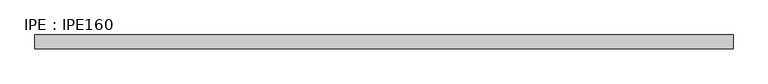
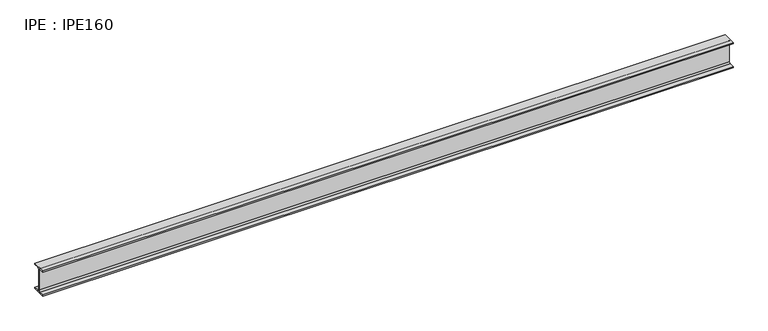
"""IFC4 building model written with IfcOpenShell, lengths in millimetres: beam geometry, IPE : IPE160."""

from ifc_helpers import new_model, si_unit, point, frame, frame_2d, origin, place, context, project, spatial, polyline, circle_curve, trimmed, segment, composite_curve, outline, extrude, source, transform, mapped, element, save


def ipe_ipe160_a0701bb3(model_context):
    return source(origin(), model_context, "Body", "SweptSolid", [
        extrude(outline(composite_curve([segment(polyline([(41.0, -72.6), (41.0, -80.0), (-41.0, -80.0), (-41.0, -72.6), (-11.5, -72.6)]), True, "CONTINUOUS"), segment(trimmed(circle_curve(frame_2d((-11.5, -63.6)), 9.0), [point((-11.5, -72.6))], [point((-2.5, -63.6))], True, "CARTESIAN"), True, "CONTINUOUS"), segment(polyline([(-2.5, -63.6), (-2.5, 63.6)]), True, "CONTINUOUS"), segment(trimmed(circle_curve(frame_2d((-11.5, 63.6)), 9.0), [point((-2.5, 63.6))], [point((-11.5, 72.6))], True, "CARTESIAN"), True, "CONTINUOUS"), segment(polyline([(-11.5, 72.6), (-41.0, 72.6), (-41.0, 80.0), (41.0, 80.0), (41.0, 72.6), (11.5, 72.6)]), True, "CONTINUOUS"), segment(trimmed(circle_curve(frame_2d((11.5, 63.6)), 9.0), [point((11.5, 72.6))], [point((2.5, 63.6))], True, "CARTESIAN"), True, "CONTINUOUS"), segment(polyline([(2.5, 63.6), (2.5, -63.6)]), True, "CONTINUOUS"), segment(trimmed(circle_curve(frame_2d((11.5, -63.6)), 9.0), [point((2.5, -63.6))], [point((11.5, -72.6))], True, "CARTESIAN"), True, "CONTINUOUS"), segment(polyline([(11.5, -72.6), (41.0, -72.6)]), True, "CONTINUOUS")], self_intersect=False)), frame((-2030.4, 0.0, 0.0), z_axis=(1.0, 0.0, 0.0), x_axis=(0.0, 1.0, 0.0)), (0.0, 0.0, 1.0), 4140.7),
    ])


if __name__ == "__main__":
    model = new_model("IFC4")
    model_context = context("Model", 3, world=origin())
    ifc_project = project(units=[si_unit("LENGTHUNIT", "METRE", prefix="MILLI")], contexts=[model_context])
    site = spatial("IfcSite", under=ifc_project)
    building = spatial("IfcBuilding", under=site)
    placement = place(None, origin())
    ipe_ipe160_shape = ipe_ipe160_a0701bb3(model_context)
    element("IfcBeam", 1, ObjectType="IPE : IPE160", at=placement, inside=building, context=model_context, shape_type="MappedRepresentation", body=[
        mapped(ipe_ipe160_shape, transform((0.0, 0.0, 0.0), x_axis=(1.0, 0.0, 0.0), y_axis=(0.0, 1.0, 0.0), z_axis=(0.0, 0.0, 1.0))),
    ])
    save(model, "model.ifc")
